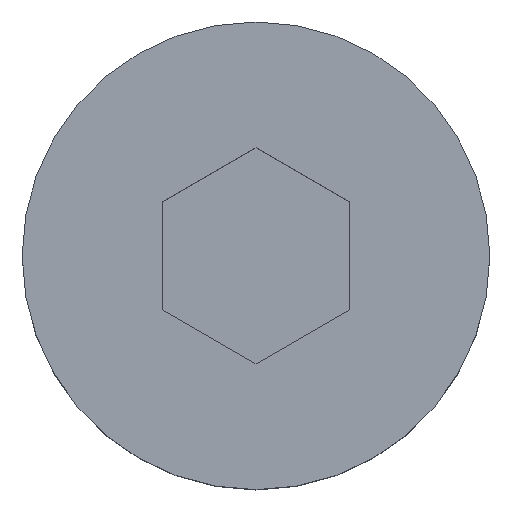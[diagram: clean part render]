
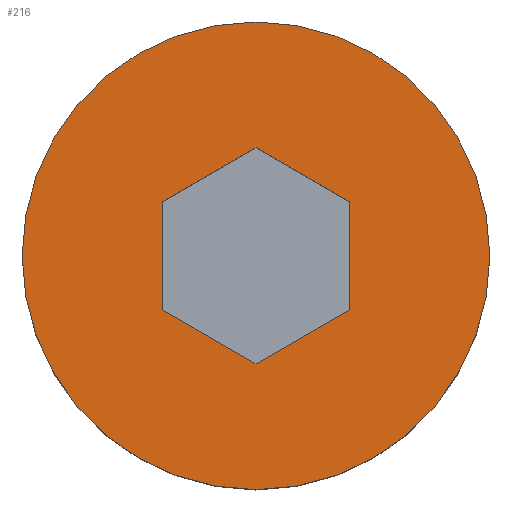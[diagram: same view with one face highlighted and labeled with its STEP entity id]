
A CAD part, top view. The second image highlights one B-rep face of the part: STEP entity #216.
In plain terms, the highlighted planar face has unit normal (0, 0, 1).
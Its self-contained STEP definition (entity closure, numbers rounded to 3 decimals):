
#48 = LINE ( 'NONE', #799, #829 ) ;
#74 = CARTESIAN_POINT ( 'NONE',  ( 0., -4.619, 8. ) ) ;
#148 = DIRECTION ( 'NONE',  ( 1., 0., 0. ) ) ;
#152 = DIRECTION ( 'NONE',  ( 0., 0., 1. ) ) ;
#157 = CARTESIAN_POINT ( 'NONE',  ( 0., 0., 8. ) ) ;
#216 = ADVANCED_FACE ( 'NONE', ( #948, #927 ), #852, .F. ) ;
#217 = CARTESIAN_POINT ( 'NONE',  ( 9.5, 0.866, 8. ) ) ;
#221 = DIRECTION ( 'NONE',  ( 0.866, 0.5, 0. ) ) ;
#230 = LINE ( 'NONE', #1136, #425 ) ;
#237 = CARTESIAN_POINT ( 'NONE',  ( -4., -2.309, 8. ) ) ;
#249 = VERTEX_POINT ( 'NONE', #603 ) ;
#315 = VERTEX_POINT ( 'NONE', #237 ) ;
#332 = EDGE_LOOP ( 'NONE', ( #492, #510, #525, #536, #554, #567 ) ) ;
#343 = VERTEX_POINT ( 'NONE', #74 ) ;
#352 = AXIS2_PLACEMENT_3D ( 'NONE', #758, #751, #750 ) ;
#389 = VECTOR ( 'NONE', #1077, 1000. ) ;
#393 = VERTEX_POINT ( 'NONE', #617 ) ;
#425 = VECTOR ( 'NONE', #1096, 1000. ) ;
#445 = DIRECTION ( 'NONE',  ( -0.866, 0.5, 0. ) ) ;
#470 = ORIENTED_EDGE ( 'NONE', *, *, #678, .T. ) ;
#474 = ORIENTED_EDGE ( 'NONE', *, *, #754, .T. ) ;
#488 = VECTOR ( 'NONE', #221, 1000. ) ;
#492 = ORIENTED_EDGE ( 'NONE', *, *, #755, .F. ) ;
#510 = ORIENTED_EDGE ( 'NONE', *, *, #762, .F. ) ;
#525 = ORIENTED_EDGE ( 'NONE', *, *, #766, .F. ) ;
#536 = ORIENTED_EDGE ( 'NONE', *, *, #780, .F. ) ;
#538 = CARTESIAN_POINT ( 'NONE',  ( 0., 4.619, 8. ) ) ;
#554 = ORIENTED_EDGE ( 'NONE', *, *, #789, .F. ) ;
#567 = ORIENTED_EDGE ( 'NONE', *, *, #800, .F. ) ;
#589 = VECTOR ( 'NONE', #801, 1000. ) ;
#603 = CARTESIAN_POINT ( 'NONE',  ( -4., 2.309, 8. ) ) ;
#611 = LINE ( 'NONE', #217, #488 ) ;
#617 = CARTESIAN_POINT ( 'NONE',  ( 4., 2.309, 8. ) ) ;
#629 = VECTOR ( 'NONE', #1062, 1000. ) ;
#655 = LINE ( 'NONE', #886, #629 ) ;
#660 = CARTESIAN_POINT ( 'NONE',  ( 4., 0., 8. ) ) ;
#668 = DIRECTION ( 'NONE',  ( 1., 0., 0. ) ) ;
#678 = EDGE_CURVE ( 'NONE', #1035, #745, #1034, .T. ) ;
#679 = DIRECTION ( 'NONE',  ( 0., 0., 1. ) ) ;
#713 = LINE ( 'NONE', #660, #589 ) ;
#732 = EDGE_LOOP ( 'NONE', ( #470, #474 ) ) ;
#745 = VERTEX_POINT ( 'NONE', #1014 ) ;
#750 = DIRECTION ( 'NONE',  ( -1., 0., 0. ) ) ;
#751 = DIRECTION ( 'NONE',  ( 0., 0., -1. ) ) ;
#754 = EDGE_CURVE ( 'NONE', #745, #1035, #853, .T. ) ;
#755 = EDGE_CURVE ( 'NONE', #1184, #249, #655, .T. ) ;
#758 = CARTESIAN_POINT ( 'NONE',  ( 10., 0., 8. ) ) ;
#762 = EDGE_CURVE ( 'NONE', #393, #1184, #48, .T. ) ;
#766 = EDGE_CURVE ( 'NONE', #796, #393, #713, .T. ) ;
#770 = LINE ( 'NONE', #1152, #389 ) ;
#780 = EDGE_CURVE ( 'NONE', #343, #796, #611, .T. ) ;
#788 = CARTESIAN_POINT ( 'NONE',  ( 0., 0., 8. ) ) ;
#789 = EDGE_CURVE ( 'NONE', #315, #343, #230, .T. ) ;
#796 = VERTEX_POINT ( 'NONE', #1091 ) ;
#799 = CARTESIAN_POINT ( 'NONE',  ( 9.5, -0.866, 8. ) ) ;
#800 = EDGE_CURVE ( 'NONE', #249, #315, #770, .T. ) ;
#801 = DIRECTION ( 'NONE',  ( 0., 1., 0. ) ) ;
#829 = VECTOR ( 'NONE', #445, 1000. ) ;
#852 = PLANE ( 'NONE',  #352 ) ;
#853 = CIRCLE ( 'NONE', #892, 10. ) ;
#886 = CARTESIAN_POINT ( 'NONE',  ( 5.5, 7.794, 8. ) ) ;
#892 = AXIS2_PLACEMENT_3D ( 'NONE', #788, #679, #668 ) ;
#908 = CARTESIAN_POINT ( 'NONE',  ( 10., 0., 8. ) ) ;
#927 = FACE_BOUND ( 'NONE', #332, .T. ) ;
#948 = FACE_OUTER_BOUND ( 'NONE', #732, .T. ) ;
#950 = AXIS2_PLACEMENT_3D ( 'NONE', #157, #152, #148 ) ;
#1014 = CARTESIAN_POINT ( 'NONE',  ( -10., 0., 8. ) ) ;
#1034 = CIRCLE ( 'NONE', #950, 10. ) ;
#1035 = VERTEX_POINT ( 'NONE', #908 ) ;
#1062 = DIRECTION ( 'NONE',  ( -0.866, -0.5, 0. ) ) ;
#1077 = DIRECTION ( 'NONE',  ( 0., -1., 0. ) ) ;
#1091 = CARTESIAN_POINT ( 'NONE',  ( 4., -2.309, 8. ) ) ;
#1096 = DIRECTION ( 'NONE',  ( 0.866, -0.5, 0. ) ) ;
#1136 = CARTESIAN_POINT ( 'NONE',  ( 5.5, -7.794, 8. ) ) ;
#1152 = CARTESIAN_POINT ( 'NONE',  ( -4., 0., 8. ) ) ;
#1184 = VERTEX_POINT ( 'NONE', #538 ) ;
